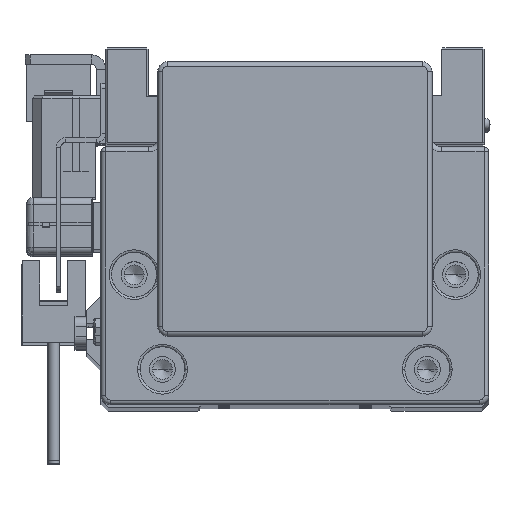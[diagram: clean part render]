
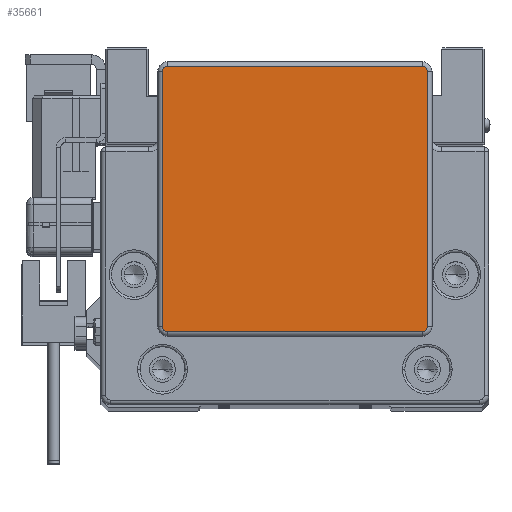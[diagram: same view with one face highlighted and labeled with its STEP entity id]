
A CAD part, top view. The second image highlights one B-rep face of the part: STEP entity #35661.
In plain terms, the highlighted planar face has unit normal (0, 0, 1).
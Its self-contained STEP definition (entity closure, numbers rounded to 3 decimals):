
#189 = CARTESIAN_POINT ( 'NONE',  ( 28., 34.25, 17. ) ) ;
#452 = LINE ( 'NONE', #189, #43256 ) ;
#1067 = VERTEX_POINT ( 'NONE', #1179 ) ;
#1179 = CARTESIAN_POINT ( 'NONE',  ( 28., -19.75, 17. ) ) ;
#1301 = CARTESIAN_POINT ( 'NONE',  ( -28., -19.75, 17. ) ) ;
#1361 = DIRECTION ( 'NONE',  ( 1., 0., 0. ) ) ;
#1575 = AXIS2_PLACEMENT_3D ( 'NONE', #50290, #18418, #51059 ) ;
#2280 = CARTESIAN_POINT ( 'NONE',  ( -27., 35.25, 17. ) ) ;
#3837 = DIRECTION ( 'NONE',  ( 0., 1., 0. ) ) ;
#5644 = VECTOR ( 'NONE', #13815, 1000. ) ;
#6749 = DIRECTION ( 'NONE',  ( 1., 0., 0. ) ) ;
#7391 = CIRCLE ( 'NONE', #1575, 1. ) ;
#7585 = DIRECTION ( 'NONE',  ( 0., 0., 1. ) ) ;
#7697 = CARTESIAN_POINT ( 'NONE',  ( 27., -20.75, 17. ) ) ;
#7919 = ORIENTED_EDGE ( 'NONE', *, *, #43119, .T. ) ;
#8069 = VECTOR ( 'NONE', #6749, 1000. ) ;
#8928 = EDGE_CURVE ( 'NONE', #46665, #30255, #45907, .T. ) ;
#9475 = EDGE_CURVE ( 'NONE', #10672, #22564, #18545, .T. ) ;
#10309 = DIRECTION ( 'NONE',  ( 1., 0., 0. ) ) ;
#10672 = VERTEX_POINT ( 'NONE', #39597 ) ;
#13319 = CARTESIAN_POINT ( 'NONE',  ( -28., 34.25, 17. ) ) ;
#13344 = CARTESIAN_POINT ( 'NONE',  ( 27., 35.25, 17. ) ) ;
#13815 = DIRECTION ( 'NONE',  ( 0., -1., 0. ) ) ;
#14741 = DIRECTION ( 'NONE',  ( 0., 0., 1. ) ) ;
#14856 = ORIENTED_EDGE ( 'NONE', *, *, #9475, .T. ) ;
#15266 = CARTESIAN_POINT ( 'NONE',  ( -27., -19.75, 17. ) ) ;
#15683 = DIRECTION ( 'NONE',  ( 1., 0., 0. ) ) ;
#17148 = ORIENTED_EDGE ( 'NONE', *, *, #20390, .T. ) ;
#17749 = LINE ( 'NONE', #1301, #5644 ) ;
#18418 = DIRECTION ( 'NONE',  ( 0., 0., 1. ) ) ;
#18545 = CIRCLE ( 'NONE', #37720, 1. ) ;
#18597 = CARTESIAN_POINT ( 'NONE',  ( 28., 34.25, 17. ) ) ;
#19439 = ORIENTED_EDGE ( 'NONE', *, *, #35390, .T. ) ;
#19868 = CARTESIAN_POINT ( 'NONE',  ( -27., 34.25, 17. ) ) ;
#20390 = EDGE_CURVE ( 'NONE', #30255, #33764, #31047, .T. ) ;
#20730 = ORIENTED_EDGE ( 'NONE', *, *, #8928, .T. ) ;
#21824 = EDGE_CURVE ( 'NONE', #33764, #10672, #17749, .T. ) ;
#22564 = VERTEX_POINT ( 'NONE', #24462 ) ;
#24052 = DIRECTION ( 'NONE',  ( 0., 0., 1. ) ) ;
#24330 = CARTESIAN_POINT ( 'NONE',  ( -27., -19.75, 17. ) ) ;
#24462 = CARTESIAN_POINT ( 'NONE',  ( -27., -20.75, 17. ) ) ;
#25478 = ORIENTED_EDGE ( 'NONE', *, *, #21824, .T. ) ;
#26053 = DIRECTION ( 'NONE',  ( -1., 0., 0. ) ) ;
#26623 = LINE ( 'NONE', #42573, #8069 ) ;
#28498 = DIRECTION ( 'NONE',  ( 1., 0., 0. ) ) ;
#30099 = DIRECTION ( 'NONE',  ( 0., 0., 1. ) ) ;
#30255 = VERTEX_POINT ( 'NONE', #32912 ) ;
#31047 = CIRCLE ( 'NONE', #50220, 1. ) ;
#32431 = FACE_OUTER_BOUND ( 'NONE', #46110, .T. ) ;
#32912 = CARTESIAN_POINT ( 'NONE',  ( -27., 35.25, 17. ) ) ;
#33764 = VERTEX_POINT ( 'NONE', #13319 ) ;
#34813 = VERTEX_POINT ( 'NONE', #7697 ) ;
#35390 = EDGE_CURVE ( 'NONE', #34813, #1067, #46121, .T. ) ;
#35661 = ADVANCED_FACE ( 'NONE', ( #32431 ), #43928, .T. ) ;
#37720 = AXIS2_PLACEMENT_3D ( 'NONE', #15266, #14741, #10309 ) ;
#39597 = CARTESIAN_POINT ( 'NONE',  ( -28., -19.75, 17. ) ) ;
#39725 = VERTEX_POINT ( 'NONE', #18597 ) ;
#40070 = EDGE_CURVE ( 'NONE', #22564, #34813, #26623, .T. ) ;
#42036 = EDGE_CURVE ( 'NONE', #39725, #46665, #7391, .T. ) ;
#42455 = ORIENTED_EDGE ( 'NONE', *, *, #42036, .T. ) ;
#42573 = CARTESIAN_POINT ( 'NONE',  ( 27., -20.75, 17. ) ) ;
#42816 = AXIS2_PLACEMENT_3D ( 'NONE', #45764, #30099, #1361 ) ;
#43119 = EDGE_CURVE ( 'NONE', #1067, #39725, #452, .T. ) ;
#43256 = VECTOR ( 'NONE', #3837, 1000. ) ;
#43928 = PLANE ( 'NONE',  #48685 ) ;
#45764 = CARTESIAN_POINT ( 'NONE',  ( 27., -19.75, 17. ) ) ;
#45907 = LINE ( 'NONE', #2280, #45995 ) ;
#45995 = VECTOR ( 'NONE', #26053, 1000. ) ;
#46110 = EDGE_LOOP ( 'NONE', ( #20730, #17148, #25478, #14856, #47048, #19439, #7919, #42455 ) ) ;
#46121 = CIRCLE ( 'NONE', #42816, 1. ) ;
#46665 = VERTEX_POINT ( 'NONE', #13344 ) ;
#47048 = ORIENTED_EDGE ( 'NONE', *, *, #40070, .T. ) ;
#48685 = AXIS2_PLACEMENT_3D ( 'NONE', #24330, #7585, #28498 ) ;
#50220 = AXIS2_PLACEMENT_3D ( 'NONE', #19868, #24052, #15683 ) ;
#50290 = CARTESIAN_POINT ( 'NONE',  ( 27., 34.25, 17. ) ) ;
#51059 = DIRECTION ( 'NONE',  ( 1., 0., 0. ) ) ;
